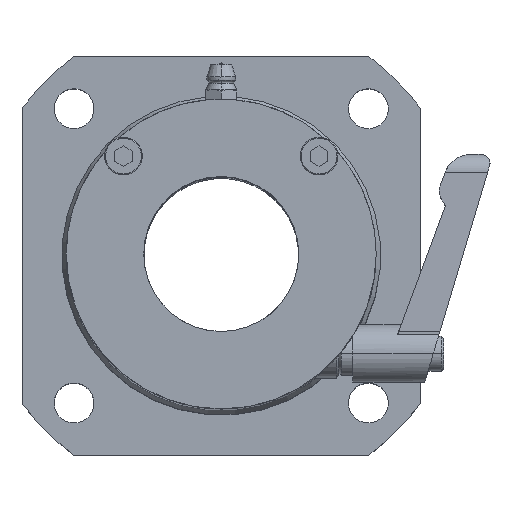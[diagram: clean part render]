
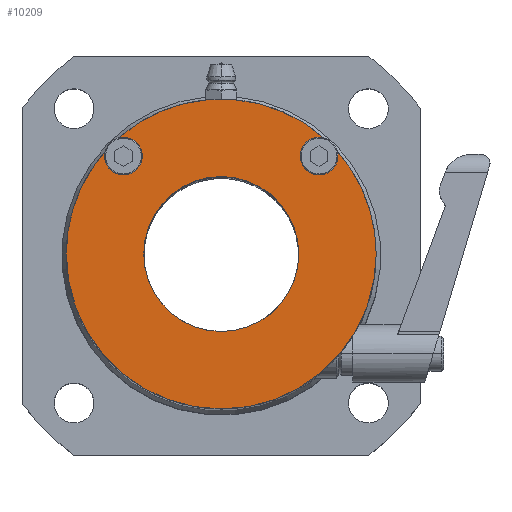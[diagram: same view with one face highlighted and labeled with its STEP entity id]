
A CAD part, top view. The second image highlights one B-rep face of the part: STEP entity #10209.
In plain terms, the highlighted planar face has unit normal (0, 0, 1).
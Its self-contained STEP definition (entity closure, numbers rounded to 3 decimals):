
#24 = DIRECTION ( 'NONE',  ( 1., 0., 0. ) ) ;
#170 = CARTESIAN_POINT ( 'NONE',  ( -20.407, 21.2, 90. ) ) ;
#244 = DIRECTION ( 'NONE',  ( 0., 0., 1. ) ) ;
#276 = AXIS2_PLACEMENT_3D ( 'NONE', #832, #3515, #6001 ) ;
#351 = ORIENTED_EDGE ( 'NONE', *, *, #760, .T. ) ;
#366 = CARTESIAN_POINT ( 'NONE',  ( -20.057, -0.9, 90. ) ) ;
#498 = ORIENTED_EDGE ( 'NONE', *, *, #2204, .F. ) ;
#533 = ORIENTED_EDGE ( 'NONE', *, *, #1406, .F. ) ;
#665 = CARTESIAN_POINT ( 'NONE',  ( 19.543, 21.2, 90. ) ) ;
#689 = DIRECTION ( 'NONE',  ( 1., 0., 0. ) ) ;
#760 = EDGE_CURVE ( 'NONE', #5086, #8594, #785, .T. ) ;
#778 = CIRCLE ( 'NONE', #1687, 4.25 ) ;
#785 = CIRCLE ( 'NONE', #5026, 35. ) ;
#799 = ORIENTED_EDGE ( 'NONE', *, *, #5821, .F. ) ;
#832 = CARTESIAN_POINT ( 'NONE',  ( -2.557, -0.9, 90. ) ) ;
#944 = CARTESIAN_POINT ( 'NONE',  ( -28.762, 22.302, 90. ) ) ;
#988 = ORIENTED_EDGE ( 'NONE', *, *, #10234, .F. ) ;
#1022 = CARTESIAN_POINT ( 'NONE',  ( 20.644, 25.305, 90. ) ) ;
#1092 = VERTEX_POINT ( 'NONE', #1567 ) ;
#1143 = DIRECTION ( 'NONE',  ( 1., 0., 0. ) ) ;
#1366 = AXIS2_PLACEMENT_3D ( 'NONE', #665, #4166, #6912 ) ;
#1406 = EDGE_CURVE ( 'NONE', #1092, #10486, #778, .T. ) ;
#1567 = CARTESIAN_POINT ( 'NONE',  ( 15.293, 21.2, 90. ) ) ;
#1687 = AXIS2_PLACEMENT_3D ( 'NONE', #3757, #6182, #2635 ) ;
#1689 = CARTESIAN_POINT ( 'NONE',  ( -24.657, 21.2, 90. ) ) ;
#1702 = CIRCLE ( 'NONE', #8103, 4.25 ) ;
#1937 = EDGE_LOOP ( 'NONE', ( #4961, #498 ) ) ;
#2080 = CIRCLE ( 'NONE', #10879, 17.5 ) ;
#2179 = AXIS2_PLACEMENT_3D ( 'NONE', #8692, #6006, #9505 ) ;
#2204 = EDGE_CURVE ( 'NONE', #5032, #10341, #5248, .T. ) ;
#2206 = CARTESIAN_POINT ( 'NONE',  ( 23.793, 21.2, 90. ) ) ;
#2293 = VERTEX_POINT ( 'NONE', #944 ) ;
#2378 = EDGE_CURVE ( 'NONE', #10341, #5032, #2080, .T. ) ;
#2585 = EDGE_CURVE ( 'NONE', #8594, #10208, #4683, .T. ) ;
#2635 = DIRECTION ( 'NONE',  ( 1., 0., 0. ) ) ;
#2721 = DIRECTION ( 'NONE',  ( 0., 0., 1. ) ) ;
#2876 = ORIENTED_EDGE ( 'NONE', *, *, #10634, .F. ) ;
#3027 = AXIS2_PLACEMENT_3D ( 'NONE', #7209, #10675, #1143 ) ;
#3464 = DIRECTION ( 'NONE',  ( 1., 0., 0. ) ) ;
#3481 = VERTEX_POINT ( 'NONE', #10883 ) ;
#3515 = DIRECTION ( 'NONE',  ( 0., 0., 1. ) ) ;
#3553 = CIRCLE ( 'NONE', #1366, 4.25 ) ;
#3621 = AXIS2_PLACEMENT_3D ( 'NONE', #8900, #244, #10749 ) ;
#3669 = CARTESIAN_POINT ( 'NONE',  ( -2.557, -0.9, 90. ) ) ;
#3757 = CARTESIAN_POINT ( 'NONE',  ( 19.543, 21.2, 90. ) ) ;
#4000 = CARTESIAN_POINT ( 'NONE',  ( -37.557, -0.9, 90. ) ) ;
#4076 = DIRECTION ( 'NONE',  ( 0., 0., 1. ) ) ;
#4166 = DIRECTION ( 'NONE',  ( 0., 0., 1. ) ) ;
#4244 = EDGE_CURVE ( 'NONE', #3481, #10953, #9829, .T. ) ;
#4324 = DIRECTION ( 'NONE',  ( 1., 0., 0. ) ) ;
#4336 = CARTESIAN_POINT ( 'NONE',  ( 23.648, 22.302, 90. ) ) ;
#4408 = CARTESIAN_POINT ( 'NONE',  ( -2.557, -0.9, 90. ) ) ;
#4449 = PLANE ( 'NONE',  #2179 ) ;
#4545 = AXIS2_PLACEMENT_3D ( 'NONE', #4408, #8706, #7037 ) ;
#4683 = CIRCLE ( 'NONE', #3027, 35. ) ;
#4961 = ORIENTED_EDGE ( 'NONE', *, *, #2378, .F. ) ;
#4968 = EDGE_CURVE ( 'NONE', #8170, #6008, #6197, .T. ) ;
#5026 = AXIS2_PLACEMENT_3D ( 'NONE', #7060, #2721, #9708 ) ;
#5032 = VERTEX_POINT ( 'NONE', #7258 ) ;
#5086 = VERTEX_POINT ( 'NONE', #4000 ) ;
#5134 = CIRCLE ( 'NONE', #6574, 4.25 ) ;
#5248 = CIRCLE ( 'NONE', #276, 17.5 ) ;
#5432 = EDGE_CURVE ( 'NONE', #10486, #10208, #1702, .T. ) ;
#5821 = EDGE_CURVE ( 'NONE', #8170, #1092, #3553, .T. ) ;
#5991 = AXIS2_PLACEMENT_3D ( 'NONE', #6759, #7671, #24 ) ;
#6001 = DIRECTION ( 'NONE',  ( 1., 0., 0. ) ) ;
#6006 = DIRECTION ( 'NONE',  ( 0., 0., 1. ) ) ;
#6008 = VERTEX_POINT ( 'NONE', #9883 ) ;
#6182 = DIRECTION ( 'NONE',  ( 0., 0., 1. ) ) ;
#6197 = CIRCLE ( 'NONE', #4545, 35. ) ;
#6564 = ORIENTED_EDGE ( 'NONE', *, *, #2585, .T. ) ;
#6574 = AXIS2_PLACEMENT_3D ( 'NONE', #1689, #11332, #3464 ) ;
#6759 = CARTESIAN_POINT ( 'NONE',  ( -24.657, 21.2, 90. ) ) ;
#6823 = EDGE_LOOP ( 'NONE', ( #7898, #351, #6564, #9916, #533, #799, #11169, #2876, #7268, #988 ) ) ;
#6912 = DIRECTION ( 'NONE',  ( 1., 0., 0. ) ) ;
#7037 = DIRECTION ( 'NONE',  ( 1., 0., 0. ) ) ;
#7060 = CARTESIAN_POINT ( 'NONE',  ( -2.557, -0.9, 90. ) ) ;
#7172 = DIRECTION ( 'NONE',  ( 0., 0., 1. ) ) ;
#7209 = CARTESIAN_POINT ( 'NONE',  ( -2.557, -0.9, 90. ) ) ;
#7258 = CARTESIAN_POINT ( 'NONE',  ( 14.943, -0.9, 90. ) ) ;
#7268 = ORIENTED_EDGE ( 'NONE', *, *, #4244, .F. ) ;
#7671 = DIRECTION ( 'NONE',  ( 0., 0., 1. ) ) ;
#7681 = CARTESIAN_POINT ( 'NONE',  ( 32.443, -0.9, 90. ) ) ;
#7772 = FACE_OUTER_BOUND ( 'NONE', #6823, .T. ) ;
#7898 = ORIENTED_EDGE ( 'NONE', *, *, #8459, .T. ) ;
#8103 = AXIS2_PLACEMENT_3D ( 'NONE', #8735, #9768, #4324 ) ;
#8170 = VERTEX_POINT ( 'NONE', #1022 ) ;
#8363 = CARTESIAN_POINT ( 'NONE',  ( -2.557, -0.9, 90. ) ) ;
#8459 = EDGE_CURVE ( 'NONE', #2293, #5086, #10303, .T. ) ;
#8594 = VERTEX_POINT ( 'NONE', #7681 ) ;
#8692 = CARTESIAN_POINT ( 'NONE',  ( -2.557, -0.9, 90. ) ) ;
#8706 = DIRECTION ( 'NONE',  ( 0., 0., 1. ) ) ;
#8735 = CARTESIAN_POINT ( 'NONE',  ( 19.543, 21.2, 90. ) ) ;
#8900 = CARTESIAN_POINT ( 'NONE',  ( -24.657, 21.2, 90. ) ) ;
#8939 = CIRCLE ( 'NONE', #3621, 4.25 ) ;
#9078 = DIRECTION ( 'NONE',  ( 1., 0., 0. ) ) ;
#9505 = DIRECTION ( 'NONE',  ( 1., 0., 0. ) ) ;
#9708 = DIRECTION ( 'NONE',  ( 1., 0., 0. ) ) ;
#9749 = AXIS2_PLACEMENT_3D ( 'NONE', #3669, #7172, #9078 ) ;
#9768 = DIRECTION ( 'NONE',  ( 0., 0., 1. ) ) ;
#9829 = CIRCLE ( 'NONE', #5991, 4.25 ) ;
#9883 = CARTESIAN_POINT ( 'NONE',  ( -25.759, 25.305, 90. ) ) ;
#9916 = ORIENTED_EDGE ( 'NONE', *, *, #5432, .F. ) ;
#10208 = VERTEX_POINT ( 'NONE', #4336 ) ;
#10209 = ADVANCED_FACE ( 'NONE', ( #7772, #10532 ), #4449, .T. ) ;
#10234 = EDGE_CURVE ( 'NONE', #2293, #3481, #5134, .T. ) ;
#10303 = CIRCLE ( 'NONE', #9749, 35. ) ;
#10341 = VERTEX_POINT ( 'NONE', #366 ) ;
#10486 = VERTEX_POINT ( 'NONE', #2206 ) ;
#10532 = FACE_BOUND ( 'NONE', #1937, .T. ) ;
#10634 = EDGE_CURVE ( 'NONE', #10953, #6008, #8939, .T. ) ;
#10675 = DIRECTION ( 'NONE',  ( 0., 0., 1. ) ) ;
#10749 = DIRECTION ( 'NONE',  ( 1., 0., 0. ) ) ;
#10879 = AXIS2_PLACEMENT_3D ( 'NONE', #8363, #4076, #689 ) ;
#10883 = CARTESIAN_POINT ( 'NONE',  ( -28.907, 21.2, 90. ) ) ;
#10953 = VERTEX_POINT ( 'NONE', #170 ) ;
#11169 = ORIENTED_EDGE ( 'NONE', *, *, #4968, .T. ) ;
#11332 = DIRECTION ( 'NONE',  ( 0., 0., 1. ) ) ;
